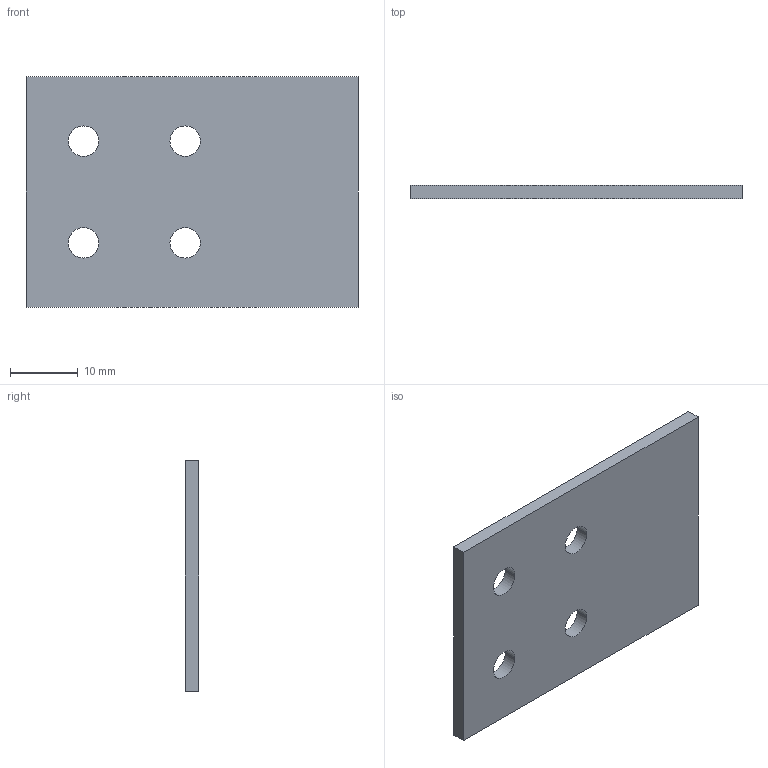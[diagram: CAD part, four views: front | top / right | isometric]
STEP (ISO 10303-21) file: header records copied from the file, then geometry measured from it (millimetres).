
FILE_DESCRIPTION( ( '' ), '1' );
FILE_NAME( 'E:/04 嬴檜蠱滌/0404 ZIMMER/040414 ZIMMER CAD download/Adapt plate/PLK for LKP, LKPS/PLK15-2.stp', '2020-04-16T10:19:34', ( '' ), ( '' ), ' ', ' ', ' ' );
FILE_SCHEMA( ( 'automotive_design' ) );
Length unit declared in the file: millimetre
Products named in the file (1): 1
Bounding box: 49 x 2 x 34 mm (x, y, z)
Volume: 3204.8 mm3; surface area: 3649.9 mm2
Topology: 1 solids, 1 shells, 14 faces, 36 edges, 24 vertices
Faces by surface type: cylinder 8, plane 6
Entity records: 888 total; most frequent: DIRECTION 82, STYLED_ITEM 75, PRESENTATION_STYLE_ASSIGNMENT 75, CARTESIAN_POINT 75, COLOUR_RGB 75, ORIENTED_EDGE 72, EDGE_CURVE 36, CURVE_STYLE 36
